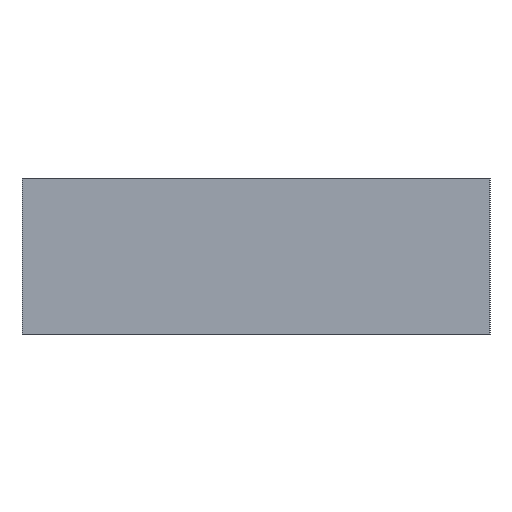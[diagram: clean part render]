
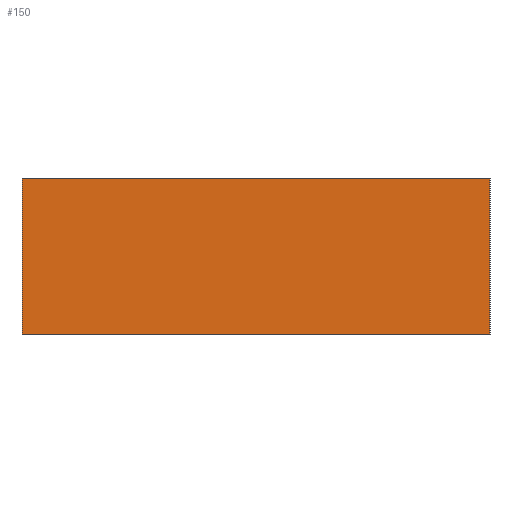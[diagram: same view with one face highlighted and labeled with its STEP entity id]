
A CAD part, left-side view. The second image highlights one B-rep face of the part: STEP entity #150.
In plain terms, the highlighted planar face has unit normal (-1, 0, 0).
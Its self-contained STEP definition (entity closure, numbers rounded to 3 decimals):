
#93 = VERTEX_POINT('',#94);
#94 = CARTESIAN_POINT('',(0.,24.,0.));
#102 = EDGE_CURVE('',#93,#103,#105,.T.);
#103 = VERTEX_POINT('',#104);
#104 = CARTESIAN_POINT('',(0.,24.,8.));
#105 = LINE('',#106,#107);
#106 = CARTESIAN_POINT('',(0.,24.,0.));
#107 = VECTOR('',#108,1.);
#108 = DIRECTION('',(0.,0.,1.));
#150 = ADVANCED_FACE('',(#151),#176,.T.);
#151 = FACE_BOUND('',#152,.T.);
#152 = EDGE_LOOP('',(#153,#163,#169,#170));
#153 = ORIENTED_EDGE('',*,*,#154,.T.);
#154 = EDGE_CURVE('',#155,#157,#159,.T.);
#155 = VERTEX_POINT('',#156);
#156 = CARTESIAN_POINT('',(0.,0.,0.));
#157 = VERTEX_POINT('',#158);
#158 = CARTESIAN_POINT('',(0.,0.,8.));
#159 = LINE('',#160,#161);
#160 = CARTESIAN_POINT('',(0.,0.,0.));
#161 = VECTOR('',#162,1.);
#162 = DIRECTION('',(0.,0.,1.));
#163 = ORIENTED_EDGE('',*,*,#164,.T.);
#164 = EDGE_CURVE('',#157,#103,#165,.T.);
#165 = LINE('',#166,#167);
#166 = CARTESIAN_POINT('',(0.,0.,8.));
#167 = VECTOR('',#168,1.);
#168 = DIRECTION('',(-0.,1.,0.));
#169 = ORIENTED_EDGE('',*,*,#102,.F.);
#170 = ORIENTED_EDGE('',*,*,#171,.F.);
#171 = EDGE_CURVE('',#155,#93,#172,.T.);
#172 = LINE('',#173,#174);
#173 = CARTESIAN_POINT('',(0.,0.,0.));
#174 = VECTOR('',#175,1.);
#175 = DIRECTION('',(-0.,1.,0.));
#176 = PLANE('',#177);
#177 = AXIS2_PLACEMENT_3D('',#178,#179,#180);
#178 = CARTESIAN_POINT('',(0.,12.,4.));
#179 = DIRECTION('',(-1.,-0.,-0.));
#180 = DIRECTION('',(0.,0.,-1.));
